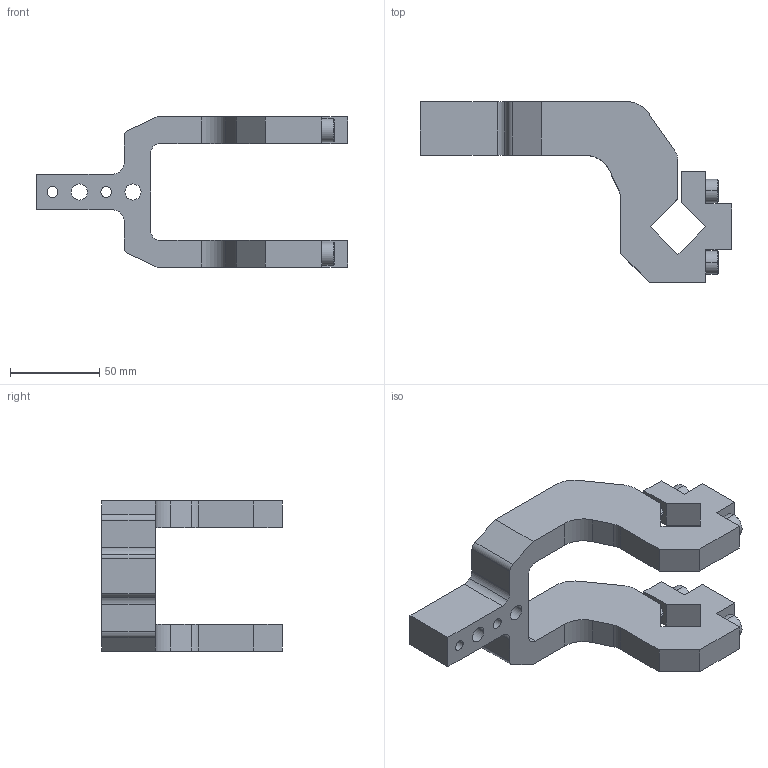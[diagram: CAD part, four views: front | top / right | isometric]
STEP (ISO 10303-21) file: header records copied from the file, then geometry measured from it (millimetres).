
FILE_DESCRIPTION((''),'2;1');
FILE_NAME('S:\Matthew\Step Files\XM Clamp Arms\XJ63-CA-02.stp','2006-06-28T08:14:57',('Matthew'),(''),'Autodesk Inventor 8','Autodesk Inventor 8','');
FILE_SCHEMA(('AUTOMOTIVE_DESIGN { 1 0 10303 214 1 1 1 1 }'));
Length unit declared in the file: millimetre
Products named in the file (1): XJ63-CA-02
Bounding box: 174 x 101 x 84 mm (x, y, z)
Volume: 209440.7 mm3; surface area: 53776.4 mm2
Topology: 1 solids, 3 shells, 154 faces, 398 edges, 256 vertices
Faces by surface type: plane 88, cylinder 34, bspline 24, cone 8
Entity records: 4973 total; most frequent: CARTESIAN_POINT 1209, ORIENTED_EDGE 780, DIRECTION 760, EDGE_CURVE 390, VECTOR 282, LINE 282, VERTEX_POINT 256, AXIS2_PLACEMENT_3D 239
